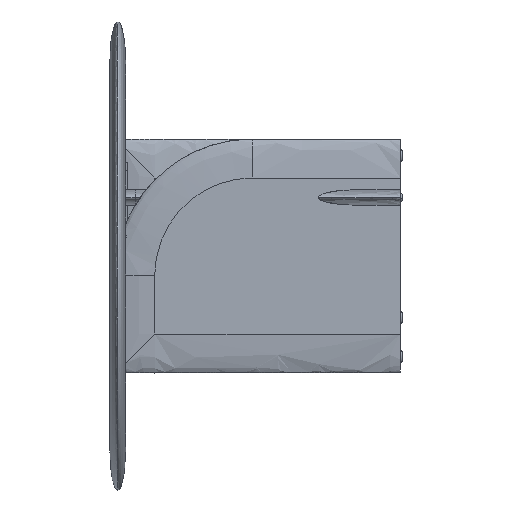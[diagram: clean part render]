
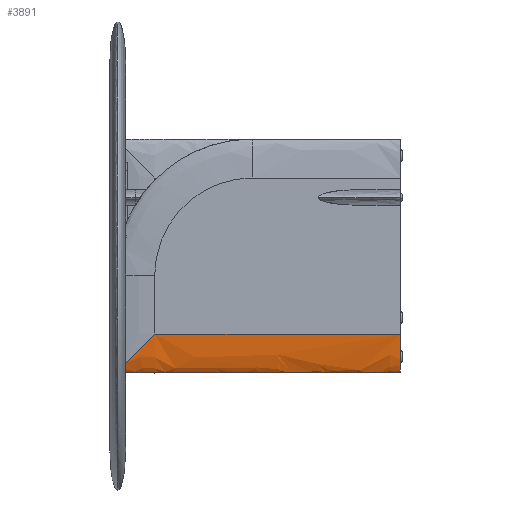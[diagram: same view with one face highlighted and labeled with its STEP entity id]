
A CAD part, left-side view. The second image highlights one B-rep face of the part: STEP entity #3891.
In plain terms, the highlighted free-form (B-spline) face has degree [3, 1] with [4, 2] control points.
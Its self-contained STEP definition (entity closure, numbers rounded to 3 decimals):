
#67 = CARTESIAN_POINT ( 'NONE',  ( 228.229, 705., -425. ) ) ;
#270 = EDGE_CURVE ( 'NONE', #12881, #6756, #1265, .T. ) ;
#387 = CARTESIAN_POINT ( 'NONE',  ( 234.041, 661.335, -381.335 ) ) ;
#551 = CARTESIAN_POINT ( 'NONE',  ( 228.229, 705., -425. ) ) ;
#860 = CARTESIAN_POINT ( 'NONE',  ( 195., 0., -350. ) ) ;
#944 = EDGE_CURVE ( 'NONE', #16472, #16721, #4698, .T. ) ;
#1265 = LINE ( 'NONE', #10417, #10622 ) ;
#1660 = CARTESIAN_POINT ( 'NONE',  ( 231.949, 683.225, -403.225 ) ) ;
#1987 = CARTESIAN_POINT ( 'NONE',  ( 198.051, 683.225, -403.225 ) ) ;
#2310 = CARTESIAN_POINT ( 'NONE',  ( 195., 630.394, -350.394 ) ) ;
#2509 = VECTOR ( 'NONE', #12868, 1000. ) ;
#2923 = CARTESIAN_POINT ( 'NONE',  ( 195., 630., -350. ) ) ;
#3000 = CARTESIAN_POINT ( 'NONE',  ( 233.279, 670.722, -390.722 ) ) ;
#3412 = CARTESIAN_POINT ( 'NONE',  ( 235., 730.6, -350. ) ) ;
#3475 = CARTESIAN_POINT ( 'NONE',  ( 201.07, 701.907, -421.907 ) ) ;
#3564 = CARTESIAN_POINT ( 'NONE',  ( 195.002, 631.568, -351.568 ) ) ;
#3891 = ADVANCED_FACE ( 'NONE', ( #4411 ), #7294, .T. ) ;
#4195 = EDGE_CURVE ( 'NONE', #6756, #16721, #11858, .T. ) ;
#4411 = FACE_OUTER_BOUND ( 'NONE', #12918, .T. ) ;
#4501 = CARTESIAN_POINT ( 'NONE',  ( 195.015, 633.919, -353.919 ) ) ;
#4576 = CARTESIAN_POINT ( 'NONE',  ( 235., 0., -550. ) ) ;
#4679 = CARTESIAN_POINT ( 'NONE',  ( 197.011, 673.85, -393.85 ) ) ;
#4698 = LINE ( 'NONE', #3412, #2509 ) ;
#4849 = CARTESIAN_POINT ( 'NONE',  ( 201.771, 705., -425. ) ) ;
#5231 = CARTESIAN_POINT ( 'NONE',  ( 201.771, 705., -425. ) ) ;
#5775 = CARTESIAN_POINT ( 'NONE',  ( 195., 705., -550. ) ) ;
#6048 = CARTESIAN_POINT ( 'NONE',  ( 195.037, 636.269, -356.269 ) ) ;
#6056 = ORIENTED_EDGE ( 'NONE', *, *, #8577, .F. ) ;
#6201 = CARTESIAN_POINT ( 'NONE',  ( 195., 630., -350. ) ) ;
#6508 = B_SPLINE_CURVE_WITH_KNOTS ( 'NONE', 3,
 ( #4849, #3475, #8586, #15222, #12517, #1987, #11143, #4679, #9879, #8414, #9793, #15058, #7155, #13780, #6048, #4501, #11233, #3564, #16439, #2310, #6201 ),
 .UNSPECIFIED., .F., .F.,
 ( 4, 2, 2, 2, 2, 2, 2, 2, 1, 2, 4 ),
 ( 0.039, 0.053, 0.066, 0.079, 0.093, 0.119, 0.133, 0.139, 0.143, 0.144, 0.146 ),
 .UNSPECIFIED. ) ;
#6756 = VERTEX_POINT ( 'NONE', #6890 ) ;
#6819 = CARTESIAN_POINT ( 'NONE',  ( 228.93, 701.907, -421.907 ) ) ;
#6890 = CARTESIAN_POINT ( 'NONE',  ( 195., 0., -350. ) ) ;
#6908 = CARTESIAN_POINT ( 'NONE',  ( 229.537, 698.802, -418.802 ) ) ;
#6947 = VERTEX_POINT ( 'NONE', #11988 ) ;
#7155 = CARTESIAN_POINT ( 'NONE',  ( 195.148, 642.537, -362.537 ) ) ;
#7294 =( BOUNDED_SURFACE ( )  B_SPLINE_SURFACE ( 3, 1, ( 
 ( #16169, #860 ),
 ( #5775, #9609 ),
 ( #11048, #4576 ),
 ( #7298, #16337 ) ),
 .UNSPECIFIED., .F., .F., .F. ) 
 B_SPLINE_SURFACE_WITH_KNOTS ( ( 4, 4 ),
 ( 2, 2 ),
 ( 0., 1. ),
 ( 0., 1. ),
 .UNSPECIFIED. ) 
 GEOMETRIC_REPRESENTATION_ITEM ( )  RATIONAL_B_SPLINE_SURFACE ( (
 ( 1., 1.),
 ( 0.333, 0.333),
 ( 0.333, 0.333),
 ( 1., 1.) ) ) 
 REPRESENTATION_ITEM ( '' )  SURFACE ( )  );
#7298 = CARTESIAN_POINT ( 'NONE',  ( 235., 705., -350. ) ) ;
#7861 = DIRECTION ( 'NONE',  ( 0., -1., 0. ) ) ;
#8019 = CARTESIAN_POINT ( 'NONE',  ( 220.292, 705., -460. ) ) ;
#8032 = CARTESIAN_POINT ( 'NONE',  ( 235., 0., -350. ) ) ;
#8335 = EDGE_CURVE ( 'NONE', #9957, #6947, #8488, .T. ) ;
#8347 = CARTESIAN_POINT ( 'NONE',  ( 232.989, 673.85, -393.85 ) ) ;
#8414 = CARTESIAN_POINT ( 'NONE',  ( 195.959, 661.335, -381.335 ) ) ;
#8488 =( BOUNDED_CURVE ( )  B_SPLINE_CURVE ( 3, ( #5231, #15766, #8019, #67 ),
 .UNSPECIFIED., .F., .T. ) 
 B_SPLINE_CURVE_WITH_KNOTS ( ( 4, 4 ),
 ( 2.419, 3.864 ),
 .UNSPECIFIED. ) 
 CURVE ( )  GEOMETRIC_REPRESENTATION_ITEM ( )  RATIONAL_B_SPLINE_CURVE ( ( 1., 0.833, 0.833, 1. ) ) 
 REPRESENTATION_ITEM ( '' )  );
#8577 = EDGE_CURVE ( 'NONE', #16472, #6947, #13819, .T. ) ;
#8586 = CARTESIAN_POINT ( 'NONE',  ( 200.463, 698.802, -418.802 ) ) ;
#9071 = EDGE_CURVE ( 'NONE', #9957, #12881, #6508, .T. ) ;
#9122 = ORIENTED_EDGE ( 'NONE', *, *, #4195, .F. ) ;
#9281 = CARTESIAN_POINT ( 'NONE',  ( 231.098, 689.464, -409.464 ) ) ;
#9486 = CARTESIAN_POINT ( 'NONE',  ( 235., 0., -550. ) ) ;
#9585 = CARTESIAN_POINT ( 'NONE',  ( 195., 0., -550. ) ) ;
#9609 = CARTESIAN_POINT ( 'NONE',  ( 195., 0., -550. ) ) ;
#9793 = CARTESIAN_POINT ( 'NONE',  ( 195.597, 655.071, -375.071 ) ) ;
#9879 = CARTESIAN_POINT ( 'NONE',  ( 196.721, 670.723, -390.723 ) ) ;
#9957 = VERTEX_POINT ( 'NONE', #14802 ) ;
#10417 = CARTESIAN_POINT ( 'NONE',  ( 195., 730.6, -350. ) ) ;
#10504 = ORIENTED_EDGE ( 'NONE', *, *, #944, .T. ) ;
#10622 = VECTOR ( 'NONE', #7861, 1000. ) ;
#10922 = CARTESIAN_POINT ( 'NONE',  ( 232.323, 680.101, -400.101 ) ) ;
#11048 = CARTESIAN_POINT ( 'NONE',  ( 235., 705., -550. ) ) ;
#11143 = CARTESIAN_POINT ( 'NONE',  ( 197.677, 680.101, -400.101 ) ) ;
#11233 = CARTESIAN_POINT ( 'NONE',  ( 195.006, 632.743, -352.743 ) ) ;
#11858 =( BOUNDED_CURVE ( )  B_SPLINE_CURVE ( 3, ( #13404, #9585, #9486, #14684 ),
 .UNSPECIFIED., .F., .F. ) 
 B_SPLINE_CURVE_WITH_KNOTS ( ( 4, 4 ),
 ( 1.571, 4.712 ),
 .UNSPECIFIED. ) 
 CURVE ( )  GEOMETRIC_REPRESENTATION_ITEM ( )  RATIONAL_B_SPLINE_CURVE ( ( 1., 0.333, 0.333, 1. ) ) 
 REPRESENTATION_ITEM ( '' )  );
#11988 = CARTESIAN_POINT ( 'NONE',  ( 228.229, 705., -425. ) ) ;
#12202 = CARTESIAN_POINT ( 'NONE',  ( 230.622, 692.58, -412.58 ) ) ;
#12517 = CARTESIAN_POINT ( 'NONE',  ( 198.902, 689.464, -409.464 ) ) ;
#12868 = DIRECTION ( 'NONE',  ( 0., -1., 0. ) ) ;
#12881 = VERTEX_POINT ( 'NONE', #2923 ) ;
#12918 = EDGE_LOOP ( 'NONE', ( #15419, #15469, #6056, #10504, #9122, #13726 ) ) ;
#13202 = CARTESIAN_POINT ( 'NONE',  ( 235., 636.269, -356.269 ) ) ;
#13284 = CARTESIAN_POINT ( 'NONE',  ( 234.883, 642.537, -362.537 ) ) ;
#13404 = CARTESIAN_POINT ( 'NONE',  ( 195., 0., -350. ) ) ;
#13726 = ORIENTED_EDGE ( 'NONE', *, *, #270, .F. ) ;
#13780 = CARTESIAN_POINT ( 'NONE',  ( 195.059, 637.836, -357.836 ) ) ;
#13819 = B_SPLINE_CURVE_WITH_KNOTS ( 'NONE', 3,
 ( #16027, #13202, #13284, #14653, #387, #3000, #8347, #10922, #1660, #9281, #12202, #6908, #6819, #551 ),
 .UNSPECIFIED., .F., .F.,
 ( 4, 2, 2, 2, 2, 2, 4 ),
 ( 0., 0.026, 0.053, 0.066, 0.08, 0.093, 0.106 ),
 .UNSPECIFIED. ) ;
#14093 = CARTESIAN_POINT ( 'NONE',  ( 235., 630., -350. ) ) ;
#14653 = CARTESIAN_POINT ( 'NONE',  ( 234.403, 655.071, -375.071 ) ) ;
#14684 = CARTESIAN_POINT ( 'NONE',  ( 235., 0., -350. ) ) ;
#14802 = CARTESIAN_POINT ( 'NONE',  ( 201.771, 705., -425. ) ) ;
#15058 = CARTESIAN_POINT ( 'NONE',  ( 195.237, 645.671, -365.671 ) ) ;
#15222 = CARTESIAN_POINT ( 'NONE',  ( 199.378, 692.58, -412.58 ) ) ;
#15419 = ORIENTED_EDGE ( 'NONE', *, *, #9071, .F. ) ;
#15469 = ORIENTED_EDGE ( 'NONE', *, *, #8335, .T. ) ;
#15766 = CARTESIAN_POINT ( 'NONE',  ( 209.708, 705., -460. ) ) ;
#16027 = CARTESIAN_POINT ( 'NONE',  ( 235., 630., -350. ) ) ;
#16169 = CARTESIAN_POINT ( 'NONE',  ( 195., 705., -350. ) ) ;
#16337 = CARTESIAN_POINT ( 'NONE',  ( 235., 0., -350. ) ) ;
#16439 = CARTESIAN_POINT ( 'NONE',  ( 195., 630.784, -350.784 ) ) ;
#16472 = VERTEX_POINT ( 'NONE', #14093 ) ;
#16721 = VERTEX_POINT ( 'NONE', #8032 ) ;
